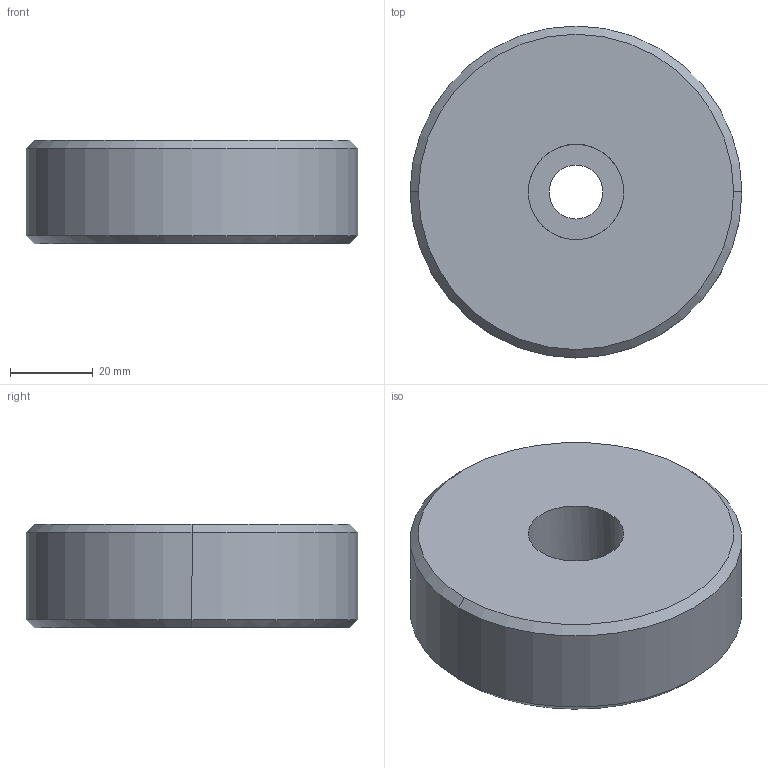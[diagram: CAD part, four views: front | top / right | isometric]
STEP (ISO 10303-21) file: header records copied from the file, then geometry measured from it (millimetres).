
FILE_DESCRIPTION(('CATIA V5 STEP Exchange'),'2;1');
FILE_NAME('C:\Users\Utente\Desktop\IO LAVORO\3D X SITO CF\X 3D SITO CF 27-09-2020\703\703.3.stp','2020-10-25T12:36:38+00:00',('none'),('none'),'CATIA Version 5 Release 20 GA (IN-10)','CATIA V5 STEP AP203','none');
FILE_SCHEMA(('CONFIG_CONTROL_DESIGN'));
Length unit declared in the file: millimetre
Products named in the file (1): 703.3
Bounding box: 80 x 80 x 25 mm (x, y, z)
Volume: 116267.5 mm3; surface area: 17058 mm2
Topology: 1 solids, 1 shells, 13 faces, 26 edges, 16 vertices
Faces by surface type: cylinder 6, cone 4, plane 3
Entity records: 458 total; most frequent: CARTESIAN_POINT 148, ORIENTED_EDGE 52, DIRECTION 48, AXIS2_PLACEMENT_3D 26, EDGE_CURVE 26, EDGE_LOOP 16, VERTEX_POINT 16, ADVANCED_FACE 13
